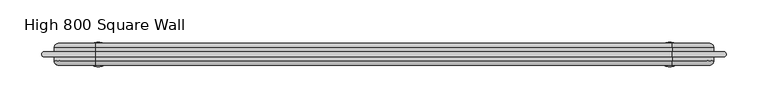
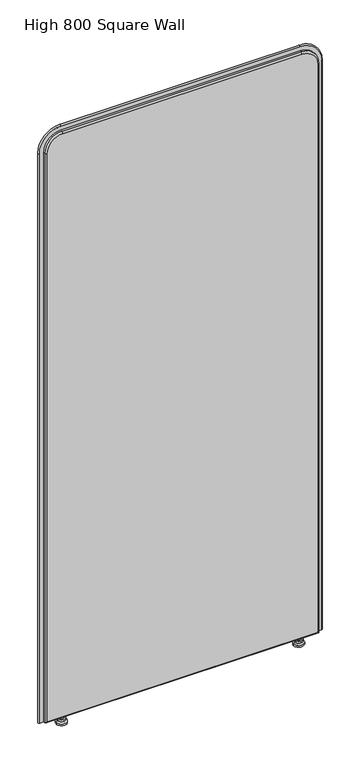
"""IFC4 building model written with IfcOpenShell, lengths in millimetres: furniture geometry, DBLTD_Sixteen3_PrivacyScreens_Artus_Square : High 800 Square Wall."""

import ifcopenshell
import ifcopenshell.guid

model = None  # the IFC model being written
_history = None  # IfcOwnerHistory: only IFC2X3 demands one
_inside = {}  # id of a spatial element -> (the spatial element, [elements in it])
_under = {}  # id of a project, library or spatial element -> (it, [spatial elements below it])
_declared = {}  # id of a project -> (the project, [libraries it declares])
_typed = {}  # id of a type object -> (the type object, [elements of that type])
_made_of = {}  # id of a material, layer set ... -> (it, [elements and type objects made of it])


def new_model(schema):
    """Start an empty IFC model of exactly this schema.

    Asked for "IFC4X3", IfcOpenShell would pick the latest addendum, in which some entities
    have other attributes; the version numbers below select the first issue.
    IFC2X3 requires an IfcOwnerHistory on every rooted entity: one is made here for all.
    """
    global model, _history
    if schema == "IFC4X3":
        model = ifcopenshell.file(schema_version=(4, 3, 0, 0))
    else:
        model = ifcopenshell.file(schema=schema)
    _inside.clear()
    _under.clear()
    _declared.clear()
    _typed.clear()
    _made_of.clear()
    _history = None
    if model.schema == "IFC2X3":
        org = make("IfcOrganization", Name="unknown")
        user = make(
            "IfcPersonAndOrganization",
            ThePerson=make("IfcPerson", FamilyName="unknown"),
            TheOrganization=org,
        )
        app = make(
            "IfcApplication",
            ApplicationDeveloper=org,
            Version="unknown",
            ApplicationFullName="unknown",
            ApplicationIdentifier="unknown",
        )
        _history = make(
            "IfcOwnerHistory",
            OwningUser=user,
            OwningApplication=app,
            ChangeAction="ADDED",
            CreationDate=0,
        )
    return model


def make(cls, **values):
    """One entity of the class cls with the attributes given. An attribute that is None is left unset."""
    return model.create_entity(
        cls, **{name: value for name, value in values.items() if value is not None}
    )


def rooted(cls, **values):
    """An entity with a GlobalId (a new one), such as an element, a storey or a relation."""
    return make(cls, GlobalId=ifcopenshell.guid.new(), OwnerHistory=_history, **values)


def si_unit(unit_type, name, prefix=None):
    """IfcSIUnit, for example si_unit("LENGTHUNIT", "METRE", prefix="MILLI")."""
    return make("IfcSIUnit", UnitType=unit_type, Prefix=prefix, Name=name)


def assignment(units):
    """IfcUnitAssignment: the units of a project."""
    return None if units is None else make("IfcUnitAssignment", Units=units)


def point(xyz):
    """IfcCartesianPoint."""
    return None if xyz is None else make("IfcCartesianPoint", Coordinates=xyz)


def direction(xyz):
    """IfcDirection."""
    return None if xyz is None else make("IfcDirection", DirectionRatios=xyz)


def frame(location, z_axis=None, x_axis=None):
    """IfcAxis2Placement3D, a coordinate frame: its origin and axes. An axis left out is left unset."""
    return make(
        "IfcAxis2Placement3D",
        Location=point(location),
        Axis=direction(z_axis),
        RefDirection=direction(x_axis),
    )


def origin():
    """The frame at (0, 0, 0) with its axes left unset."""
    return frame((0.0, 0.0, 0.0))


def place(relative_to, where):
    """IfcLocalPlacement: puts the frame where relative to a parent placement (None: the world)."""
    return make(
        "IfcLocalPlacement", PlacementRelTo=relative_to, RelativePlacement=where
    )


def context(
    kind, dimensions, precision=None, world=None, true_north=None, identifier=None
):
    """IfcGeometricRepresentationContext, for example the 3D "Model" context."""
    return make(
        "IfcGeometricRepresentationContext",
        ContextIdentifier=identifier,
        ContextType=kind,
        CoordinateSpaceDimension=dimensions,
        Precision=precision,
        WorldCoordinateSystem=world,
        TrueNorth=true_north,
    )


def project(units=None, contexts=None):
    """IfcProject with its units and contexts."""
    return rooted(
        "IfcProject",
        Name="project",
        RepresentationContexts=contexts,
        UnitsInContext=assignment(units),
    )


def spatial(cls, under=None, at=None, **own):
    """A site, building, storey or space (cls), placed at a placement, below another one or the project."""
    s = rooted(cls, ObjectPlacement=at, **own)
    if under is not None:
        _under.setdefault(under.id(), (under, []))[1].append(s)
    return s


def polyline(points):
    """IfcPolyline through the points."""
    return make("IfcPolyline", Points=[point(p) for p in points])


def circle_curve(where, radius):
    """IfcCircle in the frame where."""
    return make("IfcCircle", Position=where, Radius=radius)


def ellipse_curve(where, semi_axis1, semi_axis2):
    """IfcEllipse in the frame where."""
    return make(
        "IfcEllipse", Position=where, SemiAxis1=semi_axis1, SemiAxis2=semi_axis2
    )


def trimmed(basis, trim1, trim2, sense, master):
    """IfcTrimmedCurve: the piece of a basis curve between two trims."""
    return make(
        "IfcTrimmedCurve",
        BasisCurve=basis,
        Trim1=trim1,
        Trim2=trim2,
        SenseAgreement=sense,
        MasterRepresentation=master,
    )


def shape(context_of_items, identifier, shape_type, items):
    """IfcShapeRepresentation: the items that make up one representation, for example the "Body"."""
    return make(
        "IfcShapeRepresentation",
        ContextOfItems=context_of_items,
        RepresentationIdentifier=identifier,
        RepresentationType=shape_type,
        Items=items,
    )


def source(mapping_origin, context_of_items, identifier, shape_type, items):
    """IfcRepresentationMap: a shape defined once, which mapped items show again and again."""
    return make(
        "IfcRepresentationMap",
        MappingOrigin=mapping_origin,
        MappedRepresentation=shape(context_of_items, identifier, shape_type, items),
    )


def transform(
    local_origin,
    x_axis=None,
    y_axis=None,
    z_axis=None,
    scale=None,
    scale2=None,
    scale3=None,
    uniform=True,
):
    """IfcCartesianTransformationOperator3D, or its non-uniform kind. x_axis, y_axis, z_axis: its Axis1, 2, 3."""
    if uniform:
        return make(
            "IfcCartesianTransformationOperator3D",
            Axis1=direction(x_axis),
            Axis2=direction(y_axis),
            LocalOrigin=point(local_origin),
            Scale=scale,
            Axis3=direction(z_axis),
        )
    return make(
        "IfcCartesianTransformationOperator3DnonUniform",
        Axis1=direction(x_axis),
        Axis2=direction(y_axis),
        LocalOrigin=point(local_origin),
        Scale=scale,
        Axis3=direction(z_axis),
        Scale2=scale2,
        Scale3=scale3,
    )


def mapped(mapping_source, mapping_target):
    """IfcMappedItem: shows the shape of a source again, moved by a transform."""
    return make(
        "IfcMappedItem", MappingSource=mapping_source, MappingTarget=mapping_target
    )


def made_of(thing, what):
    """Note that an element or type object is made of a material, layer set ...; save() writes the relation."""
    if what is not None:
        _made_of.setdefault(what.id(), (what, []))[1].append(thing)
    return thing


def element(
    cls,
    number,
    at=None,
    inside=None,
    cuts=None,
    type_object=None,
    material=None,
    context=None,
    identifier="Body",
    shape_type=None,
    held_by="IfcProductDefinitionShape",
    body=None,
    shapes=None,
    **own,
):
    """One element of the class cls, such as IfcWall. Its Tag is "e" and its number.

    at: its placement. inside: the storey or other place that contains it. cuts: it is an
    opening in that element (IfcRelVoidsElement). A single representation is given by context,
    identifier, shape_type and body (its items); several are given by shapes. held_by: the class
    of the entity that holds the representations. save() writes the other relations.
    """
    e = rooted(cls, Tag="e%d" % number, ObjectPlacement=at, **own)
    if body is not None:
        shapes = [shape(context, identifier, shape_type, body)]
    if shapes is not None:
        e.Representation = make(held_by, Representations=shapes)
    if inside is not None:
        _inside.setdefault(inside.id(), (inside, []))[1].append(e)
    if cuts is not None:
        rooted(
            "IfcRelVoidsElement", RelatingBuildingElement=cuts, RelatedOpeningElement=e
        )
    if type_object is not None:
        _typed.setdefault(type_object.id(), (type_object, []))[1].append(e)
    return made_of(e, material)


def aggregate(whole, parts):
    """IfcRelAggregates: a whole, such as a stair, and the parts it consists of."""
    return rooted("IfcRelAggregates", RelatingObject=whole, RelatedObjects=parts)


def save(model, path):
    """Write the relations noted so far, then the file.

    IfcRelAggregates (storeys below a building ...), IfcRelContainedInSpatialStructure (elements
    in a storey), IfcRelDefinesByType, IfcRelAssociatesMaterial and IfcRelDeclares: one each for
    every whole, place, type object, material and project.
    """
    for whole, parts in _under.values():
        aggregate(whole, parts)
    for where, things in _inside.values():
        rooted(
            "IfcRelContainedInSpatialStructure",
            RelatedElements=things,
            RelatingStructure=where,
        )
    for kind, things in _typed.values():
        rooted("IfcRelDefinesByType", RelatedObjects=things, RelatingType=kind)
    for what, things in _made_of.values():
        rooted("IfcRelAssociatesMaterial", RelatedObjects=things, RelatingMaterial=what)
    for by, libraries in _declared.values():
        rooted("IfcRelDeclares", RelatingContext=by, RelatedDefinitions=libraries)
    model.write(path)


def plane_surface(at):
    """IfcPlane: the flat surface through the origin of the frame at, square to its z axis."""
    return make("IfcPlane", Position=at)


def cylinder_surface(at, radius):
    """IfcCylindricalSurface: all points at the distance radius from the z axis of the frame at."""
    return make("IfcCylindricalSurface", Position=at, Radius=radius)


def revolved_surface(curve, axis_point, axis_direction):
    """IfcSurfaceOfRevolution: the curve turned about the line through axis_point along axis_direction."""
    return make(
        "IfcSurfaceOfRevolution",
        SweptCurve=make("IfcArbitraryOpenProfileDef", ProfileType="CURVE", Curve=curve),
        AxisPosition=make("IfcAxis1Placement", Location=point(axis_point), Axis=direction(axis_direction)),
    )


def advanced_brep(points, edges, surfaces, faces):
    """IfcAdvancedBrep: a solid bounded by faces that lie on surfaces and meet in shared edges.

    An edge is (start, end): straight between two places in points (the first is 0);
    or (start, end, curve); or (start, end, curve, False) where it runs against its curve.
    A face is (place in surfaces, loops), or (place, loops, False) where it looks against
    its surface's normal. A loop lists edges by number (the first is 1), with a minus sign
    where the edge is run from its end to its start. The first loop is the outer one.
    """
    corners = [point(p) for p in points]
    vertices = [make("IfcVertexPoint", VertexGeometry=c) for c in corners]
    made = []
    for start, end, *more in edges:
        made.append(
            make(
                "IfcEdgeCurve",
                EdgeStart=vertices[start],
                EdgeEnd=vertices[end],
                EdgeGeometry=more[0] if more else make("IfcPolyline", Points=[corners[start], corners[end]]),
                SameSense=more[1] if len(more) > 1 else True,
            )
        )
    hull = []
    for where, loops, *sense in faces:
        bounds = []
        for j, loop in enumerate(loops):
            ring = [make("IfcOrientedEdge", EdgeElement=made[abs(k) - 1], Orientation=k > 0) for k in loop]
            bounds.append(
                make(
                    "IfcFaceOuterBound" if j == 0 else "IfcFaceBound",
                    Bound=make("IfcEdgeLoop", EdgeList=ring),
                    Orientation=True,
                )
            )
        hull.append(make("IfcAdvancedFace", Bounds=bounds, FaceSurface=surfaces[where], SameSense=sense[0] if sense else True))
    return make("IfcAdvancedBrep", Outer=make("IfcClosedShell", CfsFaces=hull))


def high_800_square_wall_054c3995(model_context):
    return source(origin(), model_context, "Body", "AdvancedBrep", [
        advanced_brep(
        [(342.2938623, 820.0, 22.0), (349.2938623, 820.0, 22.0), (335.2938623, 820.0, 22.0), (349.2938623, 820.0, 15.0), (335.2938623, 820.0, 15.0), (353.744562, 820.0, 15.0), (330.8431626, 820.0, 15.0), (353.744562, 820.0, 10.0), (330.8431626, 820.0, 10.0), (357.2938623, 820.0, 5.0), (327.2938623, 820.0, 5.0), (357.2938623, 820.0, 0.0), (327.2938623, 820.0, 0.0), (342.2938623, 820.0, 0.0)],
        [
            (0, 1),
            (1, 2, circle_curve(frame((342.2938623, 820.0, 22.0), z_axis=(0.0, 0.0, 1.0), x_axis=(1.0, 0.0, 0.0)), 7.0)),
            (2, 0),
            (2, 1, circle_curve(frame((342.2938623, 820.0, 22.0), z_axis=(0.0, 0.0, 1.0), x_axis=(1.0, 0.0, 0.0)), 7.0)),
            (1, 3),
            (3, 4, circle_curve(frame((342.2938623, 820.0, 15.0), z_axis=(0.0, 0.0, 1.0), x_axis=(1.0, 0.0, 0.0)), 7.0)),
            (4, 2),
            (4, 3, circle_curve(frame((342.2938623, 820.0, 15.0), z_axis=(0.0, 0.0, 1.0), x_axis=(1.0, 0.0, 0.0)), 7.0)),
            (3, 5),
            (5, 6, circle_curve(frame((342.2938623, 820.0, 15.0), z_axis=(0.0, 0.0, 1.0), x_axis=(1.0, 0.0, 0.0)), 11.4506997)),
            (6, 4),
            (6, 5, circle_curve(frame((342.2938623, 820.0, 15.0), z_axis=(0.0, 0.0, 1.0), x_axis=(1.0, 0.0, 0.0)), 11.4506997)),
            (5, 7),
            (7, 8, circle_curve(frame((342.2938623, 820.0, 10.0), z_axis=(0.0, 0.0, 1.0), x_axis=(1.0, 0.0, 0.0)), 11.4506997)),
            (8, 6),
            (8, 7, circle_curve(frame((342.2938623, 820.0, 10.0), z_axis=(0.0, 0.0, 1.0), x_axis=(1.0, 0.0, 0.0)), 11.4506997)),
            (7, 9),
            (9, 10, circle_curve(frame((342.2938623, 820.0, 5.0), z_axis=(0.0, 0.0, 1.0), x_axis=(1.0, 0.0, 0.0)), 15.0)),
            (10, 8),
            (10, 9, circle_curve(frame((342.2938623, 820.0, 5.0), z_axis=(0.0, 0.0, 1.0), x_axis=(1.0, 0.0, 0.0)), 15.0)),
            (9, 11),
            (11, 12, circle_curve(frame((342.2938623, 820.0, 0.0), z_axis=(0.0, 0.0, 1.0), x_axis=(1.0, 0.0, 0.0)), 15.0)),
            (12, 10),
            (12, 11, circle_curve(frame((342.2938623, 820.0, 0.0), z_axis=(0.0, 0.0, 1.0), x_axis=(1.0, 0.0, 0.0)), 15.0)),
            (11, 13),
            (13, 12),
        ],
        [
            plane_surface(frame((342.2938623, 820.0, 22.0), z_axis=(0.0, 0.0, 1.0), x_axis=(1.0, 0.0, 0.0))),
            cylinder_surface(frame((342.2938623, 820.0, 5.0), z_axis=(0.0, 0.0, 1.0), x_axis=(1.0, 0.0, 0.0)), 7.0),
            plane_surface(frame((342.2938623, 820.0, 15.0), z_axis=(0.0, 0.0, 1.0), x_axis=(1.0, 0.0, 0.0))),
            cylinder_surface(frame((342.2938623, 820.0, 5.0), z_axis=(0.0, 0.0, 1.0), x_axis=(1.0, 0.0, 0.0)), 11.4506997),
            revolved_surface(polyline([(357.2938623, 820.0, 5.0), (353.744562, 820.0, 10.0)]), (342.2938623, 820.0, 5.0), (0.0, 0.0, 1.0)),
            cylinder_surface(frame((342.2938623, 820.0, 5.0), z_axis=(0.0, 0.0, 1.0), x_axis=(1.0, 0.0, 0.0)), 15.0),
            plane_surface(frame((342.2938623, 820.0, 0.0), z_axis=(0.0, 0.0, -1.0), x_axis=(1.0, 0.0, 0.0))),
        ],
        [
            (0, [[1, 2, 3]]),
            (0, [[-3, 4, -1]]),
            (1, [[-2, 5, 6, 7]]),
            (1, [[-4, -7, 8, -5]]),
            (2, [[-6, 9, 10, 11]]),
            (2, [[-8, -11, 12, -9]]),
            (3, [[-10, 13, 14, 15]]),
            (3, [[-12, -15, 16, -13]]),
            (4, [[-14, 17, 18, 19]]),
            (4, [[-16, -19, 20, -17]]),
            (5, [[-18, 21, 22, 23]]),
            (5, [[-20, -23, 24, -21]]),
            (6, [[-22, 25, 26]]),
            (6, [[-24, -26, -25]]),
        ],
    ),
        advanced_brep(
        [(-335.2938623, 820.0, 22.0), (-349.2938623, 820.0, 22.0), (-342.2938623, 820.0, 22.0), (-335.2938623, 820.0, 15.0), (-349.2938623, 820.0, 15.0), (-330.8431626, 820.0, 15.0), (-353.744562, 820.0, 15.0), (-330.8431626, 820.0, 10.0), (-353.744562, 820.0, 10.0), (-327.2938623, 820.0, 5.0), (-357.2938623, 820.0, 5.0), (-327.2938623, 820.0, 0.0), (-357.2938623, 820.0, 0.0), (-342.2938623, 820.0, 0.0)],
        [
            (0, 1, circle_curve(frame((-342.2938623, 820.0, 22.0), z_axis=(0.0, 0.0, 1.0), x_axis=(-1.0, 0.0, 0.0)), 7.0)),
            (1, 2),
            (2, 0),
            (1, 0, circle_curve(frame((-342.2938623, 820.0, 22.0), z_axis=(0.0, 0.0, 1.0), x_axis=(-1.0, 0.0, 0.0)), 7.0)),
            (3, 4, circle_curve(frame((-342.2938623, 820.0, 15.0), z_axis=(0.0, 0.0, 1.0), x_axis=(-1.0, 0.0, 0.0)), 7.0)),
            (4, 1),
            (0, 3),
            (4, 3, circle_curve(frame((-342.2938623, 820.0, 15.0), z_axis=(0.0, 0.0, 1.0), x_axis=(-1.0, 0.0, 0.0)), 7.0)),
            (5, 6, circle_curve(frame((-342.2938623, 820.0, 15.0), z_axis=(0.0, 0.0, 1.0), x_axis=(-1.0, 0.0, 0.0)), 11.4506997)),
            (6, 4),
            (3, 5),
            (6, 5, circle_curve(frame((-342.2938623, 820.0, 15.0), z_axis=(0.0, 0.0, 1.0), x_axis=(-1.0, 0.0, 0.0)), 11.4506997)),
            (7, 8, circle_curve(frame((-342.2938623, 820.0, 10.0), z_axis=(0.0, 0.0, 1.0), x_axis=(-1.0, 0.0, 0.0)), 11.4506997)),
            (8, 6),
            (5, 7),
            (8, 7, circle_curve(frame((-342.2938623, 820.0, 10.0), z_axis=(0.0, 0.0, 1.0), x_axis=(-1.0, 0.0, 0.0)), 11.4506997)),
            (9, 10, circle_curve(frame((-342.2938623, 820.0, 5.0), z_axis=(0.0, 0.0, 1.0), x_axis=(-1.0, 0.0, 0.0)), 15.0)),
            (10, 8),
            (7, 9),
            (10, 9, circle_curve(frame((-342.2938623, 820.0, 5.0), z_axis=(0.0, 0.0, 1.0), x_axis=(-1.0, 0.0, 0.0)), 15.0)),
            (11, 12, circle_curve(frame((-342.2938623, 820.0, 0.0), z_axis=(0.0, 0.0, 1.0), x_axis=(-1.0, 0.0, 0.0)), 15.0)),
            (12, 10),
            (9, 11),
            (12, 11, circle_curve(frame((-342.2938623, 820.0, 0.0), z_axis=(0.0, 0.0, 1.0), x_axis=(-1.0, 0.0, 0.0)), 15.0)),
            (13, 12),
            (11, 13),
        ],
        [
            plane_surface(frame((-342.2938623, 820.0, 22.0), z_axis=(0.0, 0.0, 1.0), x_axis=(-1.0, 0.0, 0.0))),
            cylinder_surface(frame((-342.2938623, 820.0, 5.0), z_axis=(0.0, 0.0, -1.0), x_axis=(-1.0, 0.0, 0.0)), 7.0),
            plane_surface(frame((-342.2938623, 820.0, 15.0), z_axis=(0.0, 0.0, 1.0), x_axis=(-1.0, 0.0, 0.0))),
            cylinder_surface(frame((-342.2938623, 820.0, 5.0), z_axis=(0.0, 0.0, -1.0), x_axis=(-1.0, 0.0, 0.0)), 11.4506997),
            revolved_surface(polyline([(-353.744562, 820.0, 10.0), (-357.2938623, 820.0, 5.0)]), (-342.2938623, 820.0, 5.0), (0.0, 0.0, -1.0)),
            cylinder_surface(frame((-342.2938623, 820.0, 5.0), z_axis=(0.0, 0.0, -1.0), x_axis=(-1.0, 0.0, 0.0)), 15.0),
            plane_surface(frame((-342.2938623, 820.0, 0.0), z_axis=(0.0, 0.0, -1.0), x_axis=(-1.0, 0.0, 0.0))),
        ],
        [
            (0, [[1, 2, 3]]),
            (0, [[4, -3, -2]]),
            (1, [[5, 6, -1, 7]]),
            (1, [[8, -7, -4, -6]]),
            (2, [[9, 10, -5, 11]]),
            (2, [[12, -11, -8, -10]]),
            (3, [[13, 14, -9, 15]]),
            (3, [[16, -15, -12, -14]]),
            (4, [[17, 18, -13, 19]]),
            (4, [[20, -19, -16, -18]]),
            (5, [[21, 22, -17, 23]]),
            (5, [[24, -23, -20, -22]]),
            (6, [[25, -21, 26]]),
            (6, [[-26, -24, -25]]),
        ],
    ),
        advanced_brep(
        [(-390.0, 807.0, 27.0), (390.0, 807.0, 27.0), (390.0, 807.0, 1760.0), (345.0, 807.0, 1805.0), (-345.0, 807.0, 1805.0), (-390.0, 807.0, 1760.0), (390.0, 833.0, 27.0), (-390.0, 833.0, 27.0), (-390.0, 833.0, 1760.0), (-345.0, 833.0, 1805.0), (345.0, 833.0, 1805.0), (390.0, 833.0, 1760.0), (345.0, 811.9999946, 1810.0), (345.0, 828.0, 1810.0), (-345.0, 828.0, 1810.0), (-345.0, 812.0, 1810.0), (-395.0, 828.0, 1760.0), (-395.0, 811.9999936, 1760.0), (-395.0, 828.0, 22.0), (-395.0, 812.0, 22.0), (395.0, 828.0, 22.0), (395.0, 812.0, 22.0), (395.0, 828.0, 1760.0), (395.0, 812.0, 1760.0)],
        [
            (0, 1),
            (1, 2),
            (2, 3, circle_curve(frame((345.0, 807.0, 1760.0), z_axis=(0.0, -1.0, 0.0), x_axis=(1.0, 0.0, 0.0)), 45.0)),
            (3, 4),
            (4, 5, circle_curve(frame((-345.0, 807.0, 1760.0), z_axis=(0.0, -1.0, 0.0), x_axis=(0.0, 0.0, 1.0)), 45.0)),
            (5, 0),
            (6, 7),
            (7, 8),
            (8, 9, circle_curve(frame((-345.0, 833.0, 1760.0), z_axis=(0.0, 1.0, 0.0), x_axis=(0.0, 0.0, 1.0)), 45.0)),
            (9, 10),
            (10, 11, circle_curve(frame((345.0, 833.0, 1760.0), z_axis=(0.0, 1.0, 0.0), x_axis=(1.0, 0.0, 0.0)), 45.0)),
            (11, 6),
            (12, 13),
            (13, 14),
            (14, 15),
            (15, 12),
            (14, 16, circle_curve(frame((-345.0, 828.0, 1760.0), z_axis=(0.0, -1.0, 0.0), x_axis=(1.0, 0.0, 0.0)), 50.0)),
            (16, 17),
            (17, 15, circle_curve(frame((-345.0, 812.0, 1760.0), z_axis=(0.0, 1.0, 0.0), x_axis=(1.0, 0.0, 0.0)), 50.0)),
            (16, 18),
            (18, 19),
            (19, 17),
            (18, 20),
            (20, 21),
            (21, 19),
            (20, 22),
            (22, 23),
            (23, 21),
            (12, 23, circle_curve(frame((345.0, 812.0, 1760.0), z_axis=(0.0, 1.0, 0.0), x_axis=(1.0, 0.0, 0.0)), 50.0)),
            (22, 13, circle_curve(frame((345.0, 828.0, 1760.0), z_axis=(0.0, -1.0, 0.0), x_axis=(1.0, 0.0, 0.0)), 50.0)),
            (21, 1, ellipse_curve(frame((390.0, 812.0, 27.0), z_axis=(-0.7071067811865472, 0.0, -0.7071067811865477), x_axis=(0.707106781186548, 0.0, -0.7071067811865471)), 7.0710678, 5.0)),
            (0, 19, ellipse_curve(frame((-390.0, 812.0, 27.0), z_axis=(0.7071067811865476, 0.0, -0.7071067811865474), x_axis=(0.7071067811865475, 0.0, 0.7071067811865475)), 7.0710678, 5.0)),
            (6, 20, ellipse_curve(frame((390.0, 828.0, 27.0), z_axis=(-0.7071067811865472, 0.0, -0.7071067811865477), x_axis=(0.707106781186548, 0.0, -0.7071067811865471)), 7.0710678, 5.0)),
            (18, 7, ellipse_curve(frame((-390.0, 828.0, 27.0), z_axis=(0.7071067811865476, 0.0, -0.7071067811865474), x_axis=(0.7071067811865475, 0.0, 0.7071067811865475)), 7.0710678, 5.0)),
            (23, 2, circle_curve(frame((390.0, 812.0, 1760.0), z_axis=(0.0, 0.0, -1.0), x_axis=(1.0, 0.0, 0.0)), 5.0)),
            (11, 22, circle_curve(frame((390.0, 828.0, 1760.0), z_axis=(0.0, 0.0, -1.0), x_axis=(1.0, 0.0, 0.0)), 5.0)),
            (12, 3, circle_curve(frame((345.0, 812.0, 1805.0), z_axis=(1.0, 0.0, 0.0), x_axis=(0.0, 0.0, 1.0)), 5.0)),
            (10, 13, circle_curve(frame((345.0, 828.0, 1805.0), z_axis=(1.0, 0.0, 0.0), x_axis=(0.0, 0.0, 1.0)), 5.0)),
            (15, 4, circle_curve(frame((-345.0, 812.0, 1805.0), z_axis=(1.0, 0.0, 0.0), x_axis=(0.0, 0.0, 1.0)), 5.0)),
            (9, 14, circle_curve(frame((-345.0, 828.0, 1805.0), z_axis=(1.0, 0.0, 0.0), x_axis=(0.0, 0.0, 1.0)), 5.0)),
            (17, 5, circle_curve(frame((-390.0, 812.0, 1760.0), z_axis=(0.0, 0.0, 1.0), x_axis=(-1.0, 0.0, 0.0)), 5.0)),
            (8, 16, circle_curve(frame((-390.0, 828.0, 1760.0), z_axis=(0.0, 0.0, 1.0), x_axis=(-1.0, 0.0, 0.0)), 5.0)),
        ],
        [
            plane_surface(frame((-345.0, 807.0, 1810.0), z_axis=(0.0, -1.0, 0.0), x_axis=(-1.0, 0.0, 0.0))),
            plane_surface(frame((-345.0, 833.0, 1810.0), z_axis=(0.0, 1.0, 0.0), x_axis=(1.0, 0.0, 0.0))),
            plane_surface(frame((345.0, 807.0, 1810.0), z_axis=(0.0, 0.0, 1.0), x_axis=(0.0, 1.0, 0.0))),
            cylinder_surface(frame((-345.0, 833.0, 1760.0), z_axis=(0.0, -1.0, 0.0), x_axis=(1.0, 0.0, 0.0)), 50.0),
            plane_surface(frame((-395.0, 807.0, 1760.0), z_axis=(-1.0, 0.0, 0.0), x_axis=(0.0, 1.0, 0.0))),
            plane_surface(frame((-395.0, 807.0, 22.0), z_axis=(0.0, 0.0, -1.0), x_axis=(0.0, 1.0, 0.0))),
            plane_surface(frame((395.0, 807.0, 22.0), z_axis=(1.0, 0.0, 0.0), x_axis=(0.0, 1.0, 0.0))),
            cylinder_surface(frame((345.0, 833.0, 1760.0), z_axis=(0.0, -1.0, 0.0), x_axis=(1.0, 0.0, 0.0)), 50.0),
            cylinder_surface(frame((-395.0, 812.0, 27.0), z_axis=(1.0, 0.0, 0.0), x_axis=(0.0, 0.0, -1.0)), 5.0),
            cylinder_surface(frame((-395.0, 828.0, 27.0), z_axis=(1.0, 0.0, 0.0), x_axis=(0.0, 0.0, -1.0)), 5.0),
            cylinder_surface(frame((390.0, 812.0, 22.0), z_axis=(0.0, 0.0, 1.0), x_axis=(1.0, 0.0, 0.0)), 5.0),
            cylinder_surface(frame((390.0, 828.0, 22.0), z_axis=(0.0, 0.0, 1.0), x_axis=(1.0, 0.0, 0.0)), 5.0),
            revolved_surface(trimmed(ellipse_curve(frame((390.0, 812.0, 1760.0), z_axis=(0.0, 0.0, -1.0), x_axis=(1.0, 0.0, 0.0)), 5.0, 5.0), [point((395.0, 812.0, 1760.0))], [point((390.0, 807.0, 1760.0))], True, "CARTESIAN"), (345.0, 807.0, 1760.0), (0.0, -1.0, 0.0)),
            revolved_surface(trimmed(ellipse_curve(frame((390.0, 828.0, 1760.0), z_axis=(0.0, 0.0, -1.0), x_axis=(1.0, 0.0, 0.0)), 5.0, 5.0), [point((390.0, 833.0, 1760.0))], [point((395.0, 828.0, 1760.0))], True, "CARTESIAN"), (345.0, 807.0, 1760.0), (0.0, -1.0, 0.0)),
            cylinder_surface(frame((345.0, 812.0, 1805.0), z_axis=(-1.0, 0.0, 0.0), x_axis=(0.0, 0.0, 1.0)), 5.0),
            cylinder_surface(frame((345.0, 828.0, 1805.0), z_axis=(-1.0, 0.0, 0.0), x_axis=(0.0, 0.0, 1.0)), 5.0),
            revolved_surface(trimmed(ellipse_curve(frame((-345.0, 812.0, 1805.0), z_axis=(1.0, 0.0, 0.0), x_axis=(0.0, 0.0, 1.0)), 5.0, 5.0), [point((-345.0, 812.0, 1810.0))], [point((-345.0, 807.0, 1805.0))], True, "CARTESIAN"), (-345.0, 807.0, 1760.0), (0.0, -1.0, 0.0)),
            revolved_surface(trimmed(ellipse_curve(frame((-345.0, 828.0, 1805.0), z_axis=(1.0, 0.0, 0.0), x_axis=(0.0, 0.0, 1.0)), 5.0, 5.0), [point((-345.0, 833.0, 1805.0))], [point((-345.0, 828.0, 1810.0))], True, "CARTESIAN"), (-345.0, 807.0, 1760.0), (0.0, -1.0, 0.0)),
            cylinder_surface(frame((-390.0, 812.0, 1760.0), z_axis=(0.0, 0.0, -1.0), x_axis=(-1.0, 0.0, 0.0)), 5.0),
            cylinder_surface(frame((-390.0, 828.0, 1760.0), z_axis=(0.0, 0.0, -1.0), x_axis=(-1.0, 0.0, 0.0)), 5.0),
        ],
        [
            (0, [[1, 2, 3, 4, 5, 6]]),
            (1, [[7, 8, 9, 10, 11, 12]]),
            (2, [[13, 14, 15, 16]]),
            (3, [[-15, 17, 18, 19]]),
            (4, [[-18, 20, 21, 22]]),
            (5, [[-21, 23, 24, 25]]),
            (6, [[-24, 26, 27, 28]]),
            (7, [[-13, 29, -27, 30]]),
            (8, [[31, -1, 32, -25]]),
            (9, [[33, -23, 34, -7]]),
            (10, [[-31, -28, 35, -2]]),
            (11, [[-33, -12, 36, -26]]),
            (12, [[-35, -29, 37, -3]]),
            (13, [[-36, -11, 38, -30]]),
            (14, [[-37, -16, 39, -4]]),
            (15, [[-38, -10, 40, -14]]),
            (16, [[-39, -19, 41, -5]]),
            (17, [[-40, -9, 42, -17]]),
            (18, [[-32, -6, -41, -22]]),
            (19, [[-34, -20, -42, -8]]),
        ],
    ),
        advanced_brep(
        [(406.9577057, 823.0, 22.0), (406.9577057, 817.0, 22.0), (395.0, 817.0, 22.0), (395.0, 823.0, 22.0), (406.9577057, 823.0, 1760.0), (406.9577057, 817.0, 1760.0), (345.0, 817.0, 1821.9577057), (-345.0, 817.0, 1821.9577057), (-406.9577057, 817.0, 1760.0), (-406.9577057, 817.0, 22.0), (-395.0, 817.0, 22.0), (-395.0, 817.0, 1760.0), (-345.0, 817.0, 1810.0), (345.0, 817.0, 1810.0), (395.0, 817.0, 1760.0), (395.0, 823.0, 1760.0), (345.0, 823.0, 1810.0), (-345.0, 823.0, 1810.0), (-395.0, 823.0, 1760.0), (-395.0, 823.0, 22.0), (-406.9577057, 823.0, 22.0), (-406.9577057, 823.0, 1760.0), (-345.0, 823.0, 1821.9577057), (345.0, 823.0, 1821.9577057)],
        [
            (0, 1, circle_curve(frame((406.9577057, 820.0, 22.0), z_axis=(0.0, 0.0, -1.0), x_axis=(1.0, 0.0, 0.0)), 3.0)),
            (1, 2),
            (2, 3),
            (3, 0),
            (0, 4),
            (4, 5, circle_curve(frame((406.9577057, 820.0, 1760.0), z_axis=(0.0, 0.0, -1.0), x_axis=(1.0, 0.0, 0.0)), 3.0)),
            (5, 1),
            (5, 6, circle_curve(frame((345.0, 817.0, 1760.0), z_axis=(0.0, -1.0, 0.0), x_axis=(1.0, 0.0, 0.0)), 61.9577057)),
            (6, 7),
            (7, 8, circle_curve(frame((-345.0, 817.0, 1760.0), z_axis=(0.0, -1.0, 0.0), x_axis=(0.0, 0.0, 1.0)), 61.9577057)),
            (8, 9),
            (9, 10),
            (10, 11),
            (11, 12, circle_curve(frame((-345.0, 817.0, 1760.0), z_axis=(0.0, 1.0, 0.0), x_axis=(0.0, 0.0, 1.0)), 50.0)),
            (12, 13),
            (13, 14, circle_curve(frame((345.0, 817.0, 1760.0), z_axis=(0.0, 1.0, 0.0), x_axis=(1.0, 0.0, 0.0)), 50.0)),
            (14, 2),
            (14, 15),
            (15, 3),
            (15, 16, circle_curve(frame((345.0, 823.0, 1760.0), z_axis=(0.0, -1.0, 0.0), x_axis=(1.0, 0.0, 0.0)), 50.0)),
            (16, 17),
            (17, 18, circle_curve(frame((-345.0, 823.0, 1760.0), z_axis=(0.0, -1.0, 0.0), x_axis=(0.0, 0.0, 1.0)), 50.0)),
            (18, 19),
            (19, 20),
            (20, 21),
            (21, 22, circle_curve(frame((-345.0, 823.0, 1760.0), z_axis=(0.0, 1.0, 0.0), x_axis=(0.0, 0.0, 1.0)), 61.9577057)),
            (22, 23),
            (23, 4, circle_curve(frame((345.0, 823.0, 1760.0), z_axis=(0.0, 1.0, 0.0), x_axis=(1.0, 0.0, 0.0)), 61.9577057)),
            (23, 6, circle_curve(frame((345.0, 820.0, 1821.9577057), z_axis=(1.0, 0.0, 0.0), x_axis=(0.0, 0.0, 1.0)), 3.0)),
            (13, 16),
            (22, 7, circle_curve(frame((-345.0, 820.0, 1821.9577057), z_axis=(1.0, 0.0, 0.0), x_axis=(0.0, 0.0, 1.0)), 3.0)),
            (12, 17),
            (21, 8, circle_curve(frame((-406.9577057, 820.0, 1760.0), z_axis=(0.0, 0.0, 1.0), x_axis=(-1.0, 0.0, 0.0)), 3.0)),
            (11, 18),
            (19, 10),
            (9, 20, circle_curve(frame((-406.9577057, 820.0, 22.0), z_axis=(0.0, 0.0, -1.0), x_axis=(-1.0, 0.0, 0.0)), 3.0)),
        ],
        [
            plane_surface(frame((395.0, 807.0, 22.0), z_axis=(0.0, 0.0, -1.0), x_axis=(1.0, 0.0, 0.0))),
            cylinder_surface(frame((406.9577057, 820.0, 22.0), z_axis=(0.0, 0.0, -1.0), x_axis=(1.0, 0.0, 0.0)), 3.0),
            plane_surface(frame((406.9577057, 817.0, 22.0), z_axis=(0.0, -1.0, 0.0), x_axis=(0.0, 0.0, 1.0))),
            plane_surface(frame((395.0, 817.0, 22.0), z_axis=(-1.0, 0.0, 0.0), x_axis=(0.0, 0.0, 1.0))),
            plane_surface(frame((395.0, 823.0, 22.0), z_axis=(0.0, 1.0, 0.0), x_axis=(0.0, 0.0, 1.0))),
            revolved_surface(trimmed(ellipse_curve(frame((406.9577057, 820.0, 1760.0), z_axis=(0.0, 0.0, -1.0), x_axis=(1.0, 0.0, 0.0)), 3.0, 3.0), [point((406.9577057, 823.0, 1760.0))], [point((406.9577057, 817.0, 1760.0))], True, "CARTESIAN"), (345.0, 807.0, 1760.0), (0.0, -1.0, 0.0)),
            revolved_surface(polyline([(395.0, 817.0, 1760.0), (395.0, 823.0, 1760.0)]), (345.0, 807.0, 1760.0), (0.0, -1.0, 0.0)),
            cylinder_surface(frame((345.0, 820.0, 1821.9577057), z_axis=(1.0, 0.0, 0.0), x_axis=(0.0, 0.0, 1.0)), 3.0),
            plane_surface(frame((345.0, 817.0, 1810.0), z_axis=(0.0, 0.0, -1.0), x_axis=(-1.0, 0.0, 0.0))),
            revolved_surface(trimmed(ellipse_curve(frame((-345.0, 820.0, 1821.9577057), z_axis=(1.0, 0.0, 0.0), x_axis=(0.0, 0.0, 1.0)), 3.0, 3.0), [point((-345.0, 823.0, 1821.9577057))], [point((-345.0, 817.0, 1821.9577057))], True, "CARTESIAN"), (-345.0, 807.0, 1760.0), (0.0, -1.0, 0.0)),
            revolved_surface(polyline([(-345.0, 817.0, 1810.0), (-345.0, 823.0, 1810.0)]), (-345.0, 807.0, 1760.0), (0.0, -1.0, 0.0)),
            plane_surface(frame((-395.0, 807.0, 22.0), z_axis=(0.0, 0.0, -1.0), x_axis=(-1.0, 0.0, 0.0))),
            cylinder_surface(frame((-406.9577057, 820.0, 1760.0), z_axis=(0.0, 0.0, 1.0), x_axis=(-1.0, 0.0, 0.0)), 3.0),
            plane_surface(frame((-395.0, 817.0, 1760.0), z_axis=(1.0, 0.0, 0.0), x_axis=(0.0, 0.0, -1.0))),
        ],
        [
            (0, [[1, 2, 3, 4]]),
            (1, [[-1, 5, 6, 7]]),
            (2, [[-2, -7, 8, 9, 10, 11, 12, 13, 14, 15, 16, 17]]),
            (3, [[-3, -17, 18, 19]]),
            (4, [[-4, -19, 20, 21, 22, 23, 24, 25, 26, 27, 28, -5]]),
            (5, [[-8, -6, -28, 29]]),
            (6, [[-20, -18, -16, 30]]),
            (7, [[-29, -27, 31, -9]]),
            (8, [[-30, -15, 32, -21]]),
            (9, [[-10, -31, -26, 33]]),
            (10, [[-22, -32, -14, 34]]),
            (11, [[-24, 35, -12, 36]]),
            (12, [[-33, -25, -36, -11]]),
            (13, [[-34, -13, -35, -23]]),
        ],
    ),
    ])


if __name__ == "__main__":
    model = new_model("IFC4")
    model_context = context("Model", 3, world=origin())
    ifc_project = project(units=[si_unit("LENGTHUNIT", "METRE", prefix="MILLI")], contexts=[model_context])
    site = spatial("IfcSite", under=ifc_project)
    building = spatial("IfcBuilding", under=site)
    placement = place(None, origin())
    high_800_square_wall_shape = high_800_square_wall_054c3995(model_context)
    element("IfcFurniture", 1, ObjectType="DBLTD_Sixteen3_PrivacyScreens_Artus_Square : High 800 Square Wall", at=placement, inside=building, context=model_context, shape_type="MappedRepresentation", body=[
        mapped(high_800_square_wall_shape, transform((0.0, 0.0, 0.0), x_axis=(1.0, 0.0, 0.0), y_axis=(0.0, 1.0, 0.0), z_axis=(0.0, 0.0, 1.0))),
    ])
    save(model, "model.ifc")
